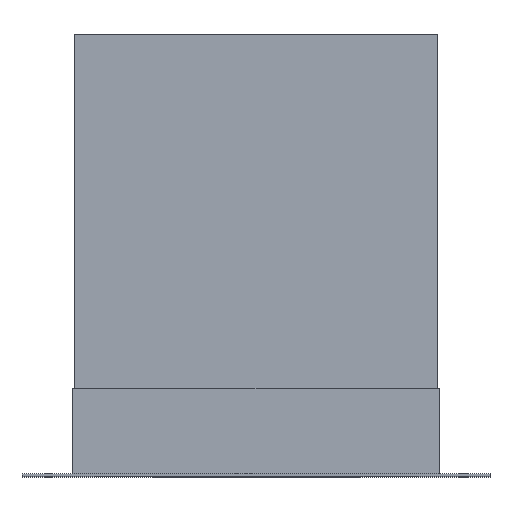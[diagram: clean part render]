
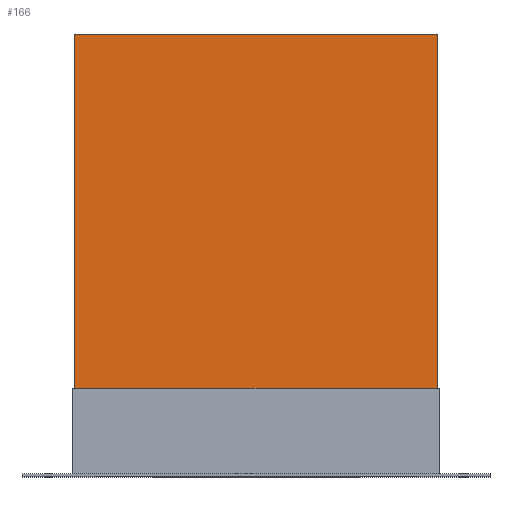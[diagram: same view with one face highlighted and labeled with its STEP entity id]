
A CAD part, top view. The second image highlights one B-rep face of the part: STEP entity #166.
In plain terms, the highlighted planar face has unit normal (0, 0, 1).
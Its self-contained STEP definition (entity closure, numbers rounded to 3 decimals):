
#166=ADVANCED_FACE('',(#363),#364,.T.);
#363=FACE_OUTER_BOUND('',#578,.T.);
#364=PLANE('',#579);
#578=EDGE_LOOP('',(#1033,#1034,#1035,#1036));
#579=AXIS2_PLACEMENT_3D('',#1037,#1038,#1039);
#1033=ORIENTED_EDGE('',*,*,#1307,.T.);
#1034=ORIENTED_EDGE('',*,*,#1395,.T.);
#1035=ORIENTED_EDGE('',*,*,#1396,.T.);
#1036=ORIENTED_EDGE('',*,*,#1397,.T.);
#1037=CARTESIAN_POINT('',(0.0,375.5,307.5));
#1038=DIRECTION('',(0.0,0.0,1.0));
#1039=DIRECTION('',(1.0,0.0,0.0));
#1307=EDGE_CURVE('',#1602,#1600,#1603,.T.);
#1395=EDGE_CURVE('',#1600,#1722,#1723,.T.);
#1396=EDGE_CURVE('',#1722,#1724,#1725,.T.);
#1397=EDGE_CURVE('',#1724,#1602,#1726,.T.);
#1600=VERTEX_POINT('',#1981);
#1602=VERTEX_POINT('',#1984);
#1603=LINE('',#1985,#1986);
#1722=VERTEX_POINT('',#2155);
#1723=LINE('',#2156,#2157);
#1724=VERTEX_POINT('',#2158);
#1725=LINE('',#2159,#2160);
#1726=LINE('',#2161,#2162);
#1981=CARTESIAN_POINT('',(307.5,150.0,307.5));
#1984=CARTESIAN_POINT('',(-307.5,150.0,307.5));
#1985=CARTESIAN_POINT('',(0.0,150.0,307.5));
#1986=VECTOR('',#2374,1.0);
#2155=CARTESIAN_POINT('',(307.5,750.0,307.5));
#2156=CARTESIAN_POINT('',(307.5,375.5,307.5));
#2157=VECTOR('',#2461,1.0);
#2158=CARTESIAN_POINT('',(-307.5,750.0,307.5));
#2159=CARTESIAN_POINT('',(0.0,750.0,307.5));
#2160=VECTOR('',#2462,1.0);
#2161=CARTESIAN_POINT('',(-307.5,375.5,307.5));
#2162=VECTOR('',#2463,1.0);
#2374=DIRECTION('',(1.0,0.0,-0.0));
#2461=DIRECTION('',(0.0,1.0,0.0));
#2462=DIRECTION('',(-1.0,0.0,0.0));
#2463=DIRECTION('',(0.0,-1.0,0.0));
